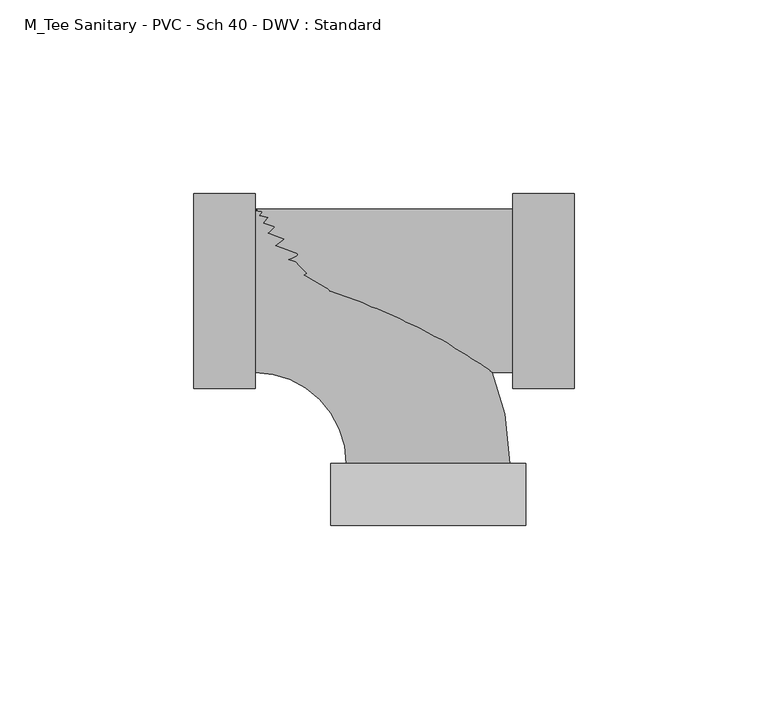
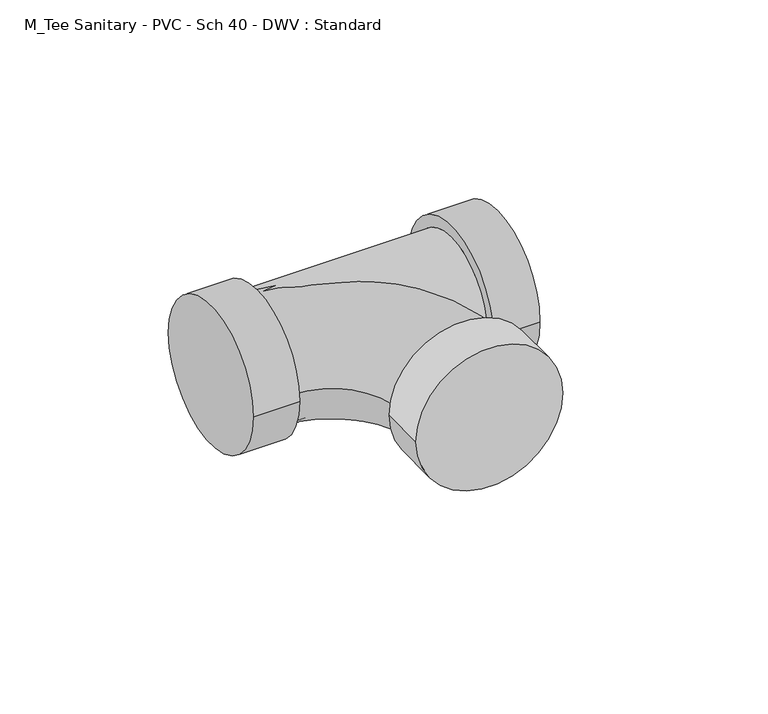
"""IFC4 building model written with IfcOpenShell, lengths in millimetres: pipe fitting geometry, M_Tee Sanitary - PVC - Sch 40 - DWV : Standard."""

from ifc_helpers import new_model, si_unit, point, frame, origin, place, context, project, spatial, circle_curve, ellipse_curve, trimmed, source, transform, mapped, element, save
from ifc_brep_helpers import plane_surface, cylinder_surface, revolved_surface, advanced_brep


def m_tee_sanitary_pvc_sch_40_dwv_standard_e0c783f1(model_context):
    return source(origin(), model_context, "Body", "AdvancedBrep", [
        advanced_brep(
        [(-44.6020625, -21.1000625, 0.0), (-44.6020625, 21.1000625, 0.0), (-21.1000625, -44.6020625, 0.0), (21.1000625, -44.6020625, 0.0), (25.1591094, -60.5020625, 0.0), (-25.1591094, -60.5020625, 0.0), (25.1591094, -44.6020625, 0.0), (-25.1591094, -44.6020625, 0.0)],
        [
            (0, 1, circle_curve(frame((-44.6020625, 0.0, 0.0), z_axis=(-1.0, 0.0, 0.0), x_axis=(0.0, 1.0, 0.0)), 21.1000625)),
            (1, 0, circle_curve(frame((-44.6020625, 0.0, 0.0), z_axis=(-1.0, 0.0, 0.0), x_axis=(0.0, 1.0, 0.0)), 21.1000625)),
            (0, 2, circle_curve(frame((-44.6020625, -44.6020625, 0.0), z_axis=(0.0, 0.0, -1.0), x_axis=(0.0, 1.0, 0.0)), 23.502)),
            (2, 3, circle_curve(frame((0.0, -44.6020625, 0.0), z_axis=(-1.18777782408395e-12, 1.0, 0.0), x_axis=(1.0, 1.18777782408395e-12, 0.0)), 21.1000625)),
            (3, 1, circle_curve(frame((-44.6020625, -44.6020625, 0.0), z_axis=(0.0, 0.0, 1.0), x_axis=(0.0, 1.0, 0.0)), 65.702125)),
            (3, 2, circle_curve(frame((0.0, -44.6020625, 0.0), z_axis=(-1.0287938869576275e-12, 1.0, 0.0), x_axis=(1.0, 1.0287938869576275e-12, 0.0)), 21.1000625)),
            (4, 5, circle_curve(frame((0.0, -60.5020625, 0.0), z_axis=(0.0, -1.0, 0.0), x_axis=(-1.0, 0.0, 0.0)), 25.1591094)),
            (5, 4, circle_curve(frame((0.0, -60.5020625, 0.0), z_axis=(0.0, -1.0, 0.0), x_axis=(-1.0, 0.0, 0.0)), 25.1591094)),
            (6, 7, circle_curve(frame((0.0, -44.6020625, 0.0), z_axis=(0.0, 1.0, 0.0), x_axis=(-1.0, 0.0, 0.0)), 25.1591094)),
            (7, 6, circle_curve(frame((0.0, -44.6020625, 0.0), z_axis=(0.0, 1.0, 0.0), x_axis=(-1.0, 0.0, 0.0)), 25.1591094)),
            (4, 6),
            (7, 5),
        ],
        [
            plane_surface(frame((-44.6020625, 0.0, 0.0), z_axis=(-1.0, 0.0, 0.0), x_axis=(0.0, 0.0, 1.0))),
            revolved_surface(trimmed(ellipse_curve(frame((-44.6020625, 0.0, 0.0), z_axis=(-1.0, 0.0, 0.0), x_axis=(0.0, 1.0, 0.0)), 21.1000625, 21.1000625), [point((-44.6020625, -21.1000625, 0.0))], [point((-44.6020625, 21.1000625, 0.0))], True, "CARTESIAN"), (-44.6020625, -44.6020625, 0.0), (0.0, 0.0, -1.0)),
            revolved_surface(trimmed(ellipse_curve(frame((-44.6020625, 0.0, 0.0), z_axis=(-1.0, 0.0, 0.0), x_axis=(0.0, 1.0, 0.0)), 21.1000625, 21.1000625), [point((-44.6020625, 21.1000625, 0.0))], [point((-44.6020625, -21.1000625, 0.0))], True, "CARTESIAN"), (-44.6020625, -44.6020625, 0.0), (0.0, 0.0, -1.0)),
            plane_surface(frame((0.0, -60.5020625, 0.0), z_axis=(0.0, -1.0, 0.0), x_axis=(0.0, 0.0, 1.0))),
            plane_surface(frame((0.0, -44.6020625, 0.0), z_axis=(0.0, 1.0, 0.0), x_axis=(0.0, 0.0, 1.0))),
            cylinder_surface(frame((0.0, -60.5020625, 0.0), z_axis=(0.0, -1.0, 0.0), x_axis=(-1.0, 0.0, 0.0)), 25.1591094),
        ],
        [
            (0, [[1, 2]]),
            (1, [[-1, 3, 4, 5]]),
            (2, [[-2, -5, 6, -3]]),
            (3, [[7, 8]]),
            (4, [[9, 10], [-4, -6]]),
            (5, [[-7, 11, -10, 12]]),
            (5, [[-8, -12, -9, -11]]),
        ],
    ),
        advanced_brep(
        [(-44.6020625, -21.1000625, 0.0), (21.855625, -21.1000625, 0.0), (21.855625, 21.1000625, 0.0), (-44.6020625, 21.1000625, 0.0), (21.855625, -25.1591094, 0.0), (21.855625, 25.1591094, 0.0), (37.755625, -25.1591094, 0.0), (37.755625, 25.1591094, 0.0), (-60.5020625, -25.1591094, 0.0), (-60.5020625, 25.1591094, 0.0), (-44.6020625, -25.1591094, 0.0), (-44.6020625, 25.1591094, 0.0)],
        [
            (0, 1),
            (1, 2, circle_curve(frame((21.855625, 0.0, 0.0), z_axis=(-1.0, 0.0, 0.0), x_axis=(0.0, 1.0, 0.0)), 21.1000625)),
            (2, 3),
            (3, 0, circle_curve(frame((-44.6020625, 0.0, 0.0), z_axis=(1.0, 0.0, 0.0), x_axis=(0.0, 1.0, 0.0)), 21.1000625)),
            (0, 3, circle_curve(frame((-44.6020625, 0.0, 0.0), z_axis=(1.0, 0.0, 0.0), x_axis=(0.0, 1.0, 0.0)), 21.1000625)),
            (2, 1, circle_curve(frame((21.855625, 0.0, 0.0), z_axis=(-1.0, 0.0, 0.0), x_axis=(0.0, 1.0, 0.0)), 21.1000625)),
            (4, 5, circle_curve(frame((21.855625, 0.0, 0.0), z_axis=(-1.0, 0.0, 0.0), x_axis=(0.0, 1.0, 0.0)), 25.1591094)),
            (5, 4, circle_curve(frame((21.855625, 0.0, 0.0), z_axis=(-1.0, 0.0, 0.0), x_axis=(0.0, 1.0, 0.0)), 25.1591094)),
            (6, 7, circle_curve(frame((37.755625, 0.0, 0.0), z_axis=(1.0, 0.0, 0.0), x_axis=(0.0, 1.0, 0.0)), 25.1591094)),
            (7, 6, circle_curve(frame((37.755625, 0.0, 0.0), z_axis=(1.0, 0.0, 0.0), x_axis=(0.0, 1.0, 0.0)), 25.1591094)),
            (4, 6),
            (7, 5),
            (8, 9, circle_curve(frame((-60.5020625, 0.0, 0.0), z_axis=(-1.0, 0.0, 0.0), x_axis=(0.0, 1.0, 0.0)), 25.1591094)),
            (9, 8, circle_curve(frame((-60.5020625, 0.0, 0.0), z_axis=(-1.0, 0.0, 0.0), x_axis=(0.0, 1.0, 0.0)), 25.1591094)),
            (10, 11, circle_curve(frame((-44.6020625, 0.0, 0.0), z_axis=(1.0, 0.0, 0.0), x_axis=(0.0, 1.0, 0.0)), 25.1591094)),
            (11, 10, circle_curve(frame((-44.6020625, 0.0, 0.0), z_axis=(1.0, 0.0, 0.0), x_axis=(0.0, 1.0, 0.0)), 25.1591094)),
            (8, 10),
            (11, 9),
        ],
        [
            cylinder_surface(frame((-44.6020625, 0.0, 0.0), z_axis=(-1.0, 0.0, 0.0), x_axis=(0.0, 1.0, 0.0)), 21.1000625),
            plane_surface(frame((21.855625, 0.0, 0.0), z_axis=(-1.0, 0.0, 0.0), x_axis=(0.0, 0.0, 1.0))),
            plane_surface(frame((37.755625, 0.0, 0.0), z_axis=(1.0, 0.0, 0.0), x_axis=(0.0, 0.0, 1.0))),
            cylinder_surface(frame((21.855625, 0.0, 0.0), z_axis=(-1.0, 0.0, 0.0), x_axis=(0.0, 1.0, 0.0)), 25.1591094),
            plane_surface(frame((-60.5020625, 0.0, 0.0), z_axis=(-1.0, 0.0, 0.0), x_axis=(0.0, 0.0, 1.0))),
            plane_surface(frame((-44.6020625, 0.0, 0.0), z_axis=(1.0, 0.0, 0.0), x_axis=(0.0, 0.0, 1.0))),
            cylinder_surface(frame((-60.5020625, 0.0, 0.0), z_axis=(-1.0, 0.0, 0.0), x_axis=(0.0, 1.0, 0.0)), 25.1591094),
        ],
        [
            (0, [[1, 2, 3, 4]]),
            (0, [[-1, 5, -3, 6]]),
            (1, [[7, 8], [-2, -6]]),
            (2, [[9, 10]]),
            (3, [[-7, 11, -10, 12]]),
            (3, [[-8, -12, -9, -11]]),
            (4, [[13, 14]]),
            (5, [[15, 16], [-4, -5]]),
            (6, [[-13, 17, -16, 18]]),
            (6, [[-14, -18, -15, -17]]),
        ],
    ),
    ])


if __name__ == "__main__":
    model = new_model("IFC4")
    model_context = context("Model", 3, world=origin())
    ifc_project = project(units=[si_unit("LENGTHUNIT", "METRE", prefix="MILLI")], contexts=[model_context])
    site = spatial("IfcSite", under=ifc_project)
    building = spatial("IfcBuilding", under=site)
    placement = place(None, origin())
    m_tee_sanitary_pvc_sch_40_dwv_standard_shape = m_tee_sanitary_pvc_sch_40_dwv_standard_e0c783f1(model_context)
    element("IfcPipeFitting", 1, ObjectType="M_Tee Sanitary - PVC - Sch 40 - DWV : Standard", at=placement, inside=building, context=model_context, shape_type="MappedRepresentation", body=[
        mapped(m_tee_sanitary_pvc_sch_40_dwv_standard_shape, transform((0.0, 0.0, 0.0), x_axis=(1.0, 0.0, 0.0), y_axis=(0.0, 1.0, 0.0), z_axis=(0.0, 0.0, 1.0))),
    ])
    save(model, "model.ifc")
